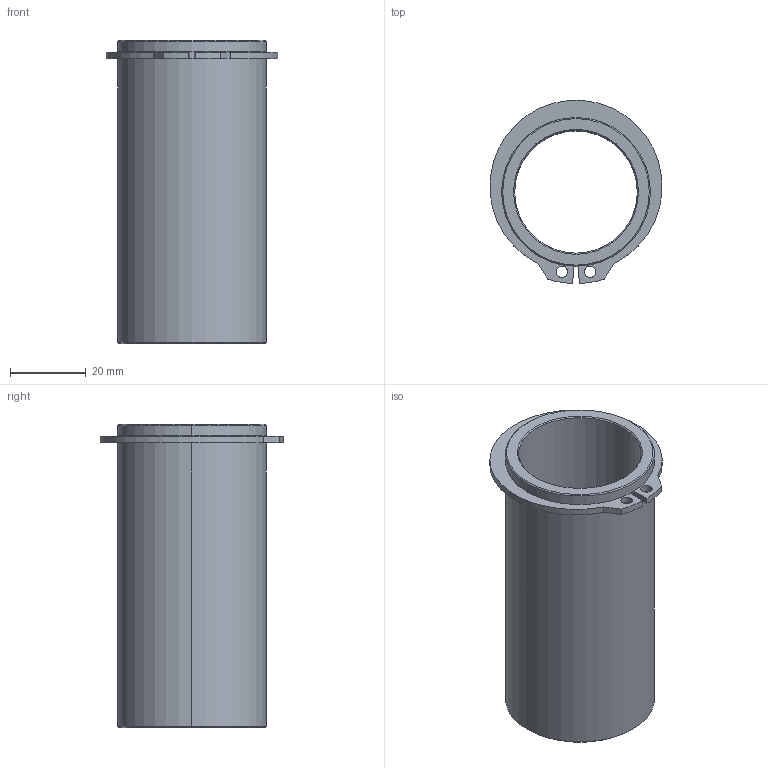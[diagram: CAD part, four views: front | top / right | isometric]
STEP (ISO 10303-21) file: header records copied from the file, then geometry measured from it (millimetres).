
FILE_DESCRIPTION((''),'2;1');
FILE_NAME('C13_032_080.stp','2008-12-17T15:09:25',(''),(''),'Mechanical Desktop 2009','Mechanical Desktop 2009',', , ');
FILE_SCHEMA(('CONFIG_CONTROL_DESIGN'));
Length unit declared in the file: millimetre
Products named in the file (2): Product; blmdl1
Assembly tree (1 placements, depth 2):
  Product
    blmdl1
Bounding box: 45.34 x 48.28 x 80 mm (x, y, z)
Volume: 31784.4 mm3; surface area: 20527.3 mm2
Topology: 2 solids, 2 shells, 34 faces, 76 edges, 48 vertices
Faces by surface type: cylinder 16, plane 10, cone 8
Entity records: 1075 total; most frequent: DIRECTION 188, CARTESIAN_POINT 160, ORIENTED_EDGE 152, AXIS2_PLACEMENT_3D 76, EDGE_CURVE 76, VERTEX_POINT 48, EDGE_LOOP 42, CIRCLE 40
